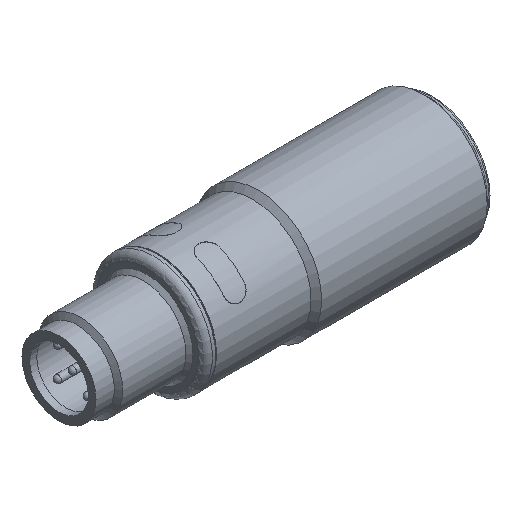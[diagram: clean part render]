
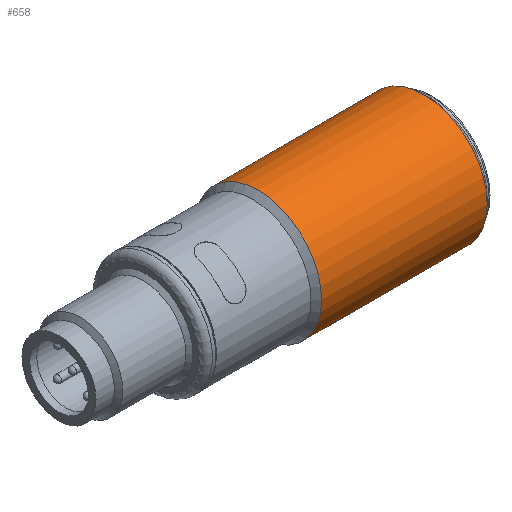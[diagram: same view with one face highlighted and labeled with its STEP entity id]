
A CAD part, isometric view. The second image highlights one B-rep face of the part: STEP entity #658.
In plain terms, the highlighted cylindrical face has radius 9 mm (diameter 18 mm), a full revolution.
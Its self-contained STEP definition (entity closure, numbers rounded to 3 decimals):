
#86=CYLINDRICAL_SURFACE('',#753,9.);
#156=FACE_BOUND('',#284,.T.);
#205=FACE_OUTER_BOUND('',#283,.T.);
#283=EDGE_LOOP('',(#596));
#284=EDGE_LOOP('',(#597));
#340=CIRCLE('',#752,9.);
#341=CIRCLE('',#754,9.);
#397=VERTEX_POINT('',#2718);
#398=VERTEX_POINT('',#2721);
#466=EDGE_CURVE('',#397,#397,#340,.T.);
#467=EDGE_CURVE('',#398,#398,#341,.T.);
#596=ORIENTED_EDGE('',*,*,#467,.F.);
#597=ORIENTED_EDGE('',*,*,#466,.T.);
#658=ADVANCED_FACE('',(#205,#156),#86,.T.);
#752=AXIS2_PLACEMENT_3D('',#2719,#936,#937);
#753=AXIS2_PLACEMENT_3D('',#2720,#938,#939);
#754=AXIS2_PLACEMENT_3D('',#2722,#940,#941);
#936=DIRECTION('center_axis',(1.,0.,0.));
#937=DIRECTION('ref_axis',(0.,1.,0.));
#938=DIRECTION('center_axis',(1.,0.,0.));
#939=DIRECTION('ref_axis',(0.,1.,0.));
#940=DIRECTION('center_axis',(1.,0.,0.));
#941=DIRECTION('ref_axis',(0.,1.,0.));
#2718=CARTESIAN_POINT('',(-22.728,9.,0.));
#2719=CARTESIAN_POINT('Origin',(-22.728,0.,
0.));
#2720=CARTESIAN_POINT('Origin',(-10.978,0.,
0.));
#2721=CARTESIAN_POINT('',(0.772,9.,0.));
#2722=CARTESIAN_POINT('Origin',(0.772,0.,0.));
